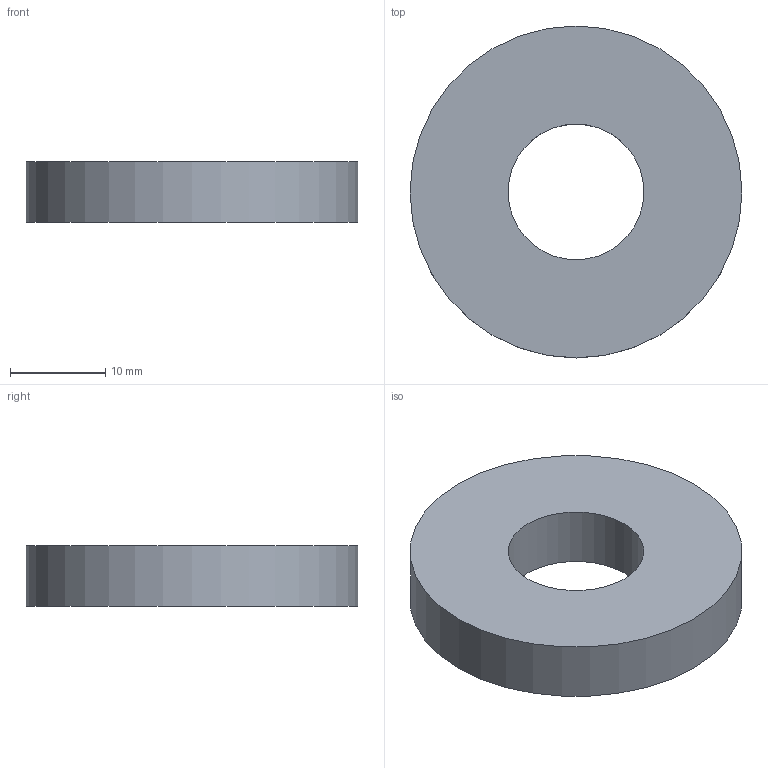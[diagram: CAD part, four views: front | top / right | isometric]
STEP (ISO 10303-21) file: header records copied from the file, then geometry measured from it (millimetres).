
FILE_DESCRIPTION(/* description */ (''),/* implementation_level */ '2;1');
FILE_NAME(/* name */ 'C:\001_Work\Designs\HLW\HLW-0500.stp',/* time_stamp */ '2015-09-04T08:33:11-04:00',/* author */ ('rramoutar'),/* organization */ ('Mason Industries Inc.'),/* preprocessor_version */ 'ST-DEVELOPER v15.6',/* originating_system */ 'Autodesk Inventor 2015',/* authorisation */ '');
FILE_SCHEMA (('AUTOMOTIVE_DESIGN { 1 0 10303 214 3 1 1 }'));
Length unit declared in the file: inch
Products named in the file (1): HLW-0500
Bounding box: 34.92 x 34.92 x 6.35 mm (x, y, z)
Volume: 5065.2 mm3; surface area: 2577.1 mm2
Topology: 1 solids, 1 shells, 4 faces, 6 edges, 4 vertices
Faces by surface type: cylinder 2, plane 2
Full cylindrical faces by diameter (mm): 14.287 x1, 34.925 x1
Entity records: 114 total; most frequent: DIRECTION 18, CARTESIAN_POINT 13, AXIS2_PLACEMENT_3D 9, EDGE_LOOP 8, ORIENTED_EDGE 8, FACE_BOUND 4, FACE_OUTER_BOUND 4, CIRCLE 4
